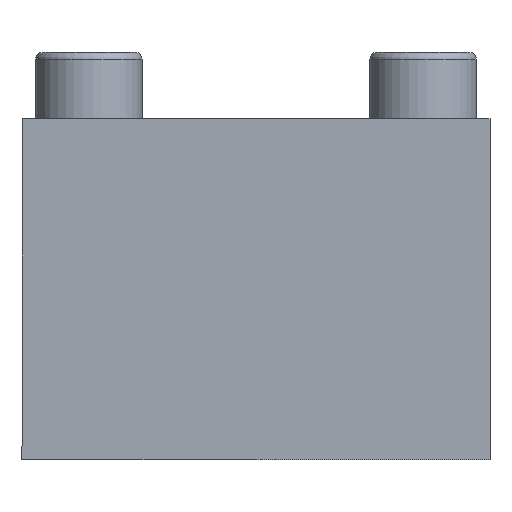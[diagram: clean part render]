
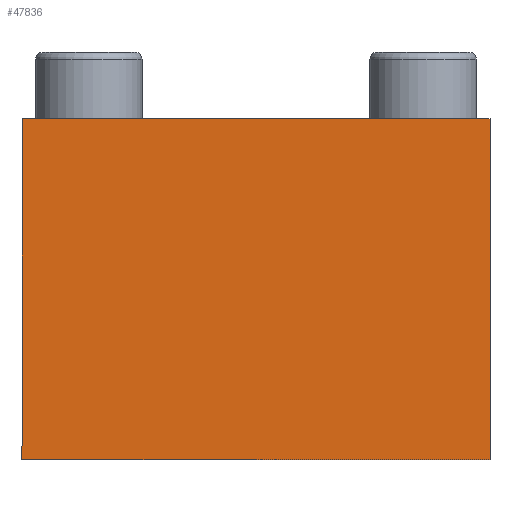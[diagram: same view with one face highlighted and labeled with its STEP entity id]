
A CAD part, front view. The second image highlights one B-rep face of the part: STEP entity #47836.
In plain terms, the highlighted planar face has unit normal (0, -1, 0).
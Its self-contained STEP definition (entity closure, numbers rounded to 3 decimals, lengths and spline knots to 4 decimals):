
#2675=FACE_OUTER_BOUND('',#5444,.T.);
#5444=EDGE_LOOP('',(#31780,#31781,#31782,#31783));
#8135=LINE('',#61749,#13339);
#9470=LINE('',#67104,#14674);
#9473=LINE('',#67110,#14677);
#9474=LINE('',#67111,#14678);
#13339=VECTOR('',#52450,7.);
#14674=VECTOR('',#53875,5.1);
#14677=VECTOR('',#53880,5.1);
#14678=VECTOR('',#53881,7.);
#18543=VERTEX_POINT('',#61746);
#18544=VERTEX_POINT('',#61748);
#20439=VERTEX_POINT('',#67103);
#20441=VERTEX_POINT('',#67109);
#23095=EDGE_CURVE('',#18543,#18544,#8135,.T.);
#24991=EDGE_CURVE('',#18543,#20439,#9470,.T.);
#24994=EDGE_CURVE('',#18544,#20441,#9473,.T.);
#24995=EDGE_CURVE('',#20441,#20439,#9474,.T.);
#31780=ORIENTED_EDGE('',*,*,#24994,.F.);
#31781=ORIENTED_EDGE('',*,*,#23095,.F.);
#31782=ORIENTED_EDGE('',*,*,#24991,.T.);
#31783=ORIENTED_EDGE('',*,*,#24995,.F.);
#43450=PLANE('',#50445);
#47836=ADVANCED_FACE('',(#2675),#43450,.T.);
#50445=AXIS2_PLACEMENT_3D('',#67108,#53878,#53879);
#52450=DIRECTION('',(1.,0.,0.));
#53875=DIRECTION('',(0.,0.,-1.));
#53878=DIRECTION('center_axis',(0.,-1.,0.));
#53879=DIRECTION('ref_axis',(-1.,0.,0.));
#53880=DIRECTION('',(0.,0.,-1.));
#53881=DIRECTION('',(-1.,0.,0.));
#61746=CARTESIAN_POINT('',(-3.5,-17.5,4.1));
#61748=CARTESIAN_POINT('',(3.5,-17.5,4.1));
#61749=CARTESIAN_POINT('',(3.5,-17.5,4.1));
#67103=CARTESIAN_POINT('',(-3.5,-17.5,-1.));
#67104=CARTESIAN_POINT('',(-3.5,-17.5,0.));
#67108=CARTESIAN_POINT('Origin',(3.5,-17.5,3.1));
#67109=CARTESIAN_POINT('',(3.5,-17.5,-1.));
#67110=CARTESIAN_POINT('',(3.5,-17.5,0.));
#67111=CARTESIAN_POINT('',(3.5,-17.5,-1.));
